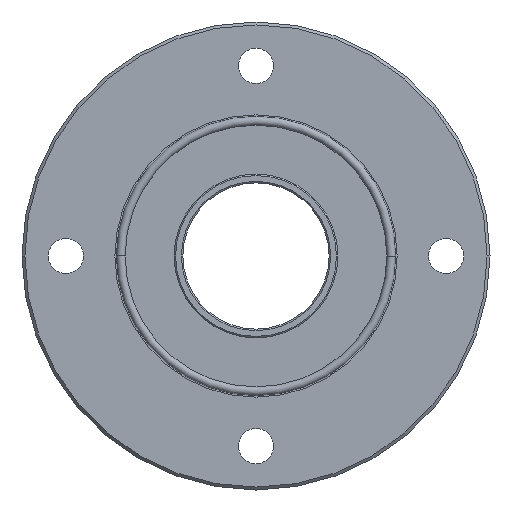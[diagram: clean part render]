
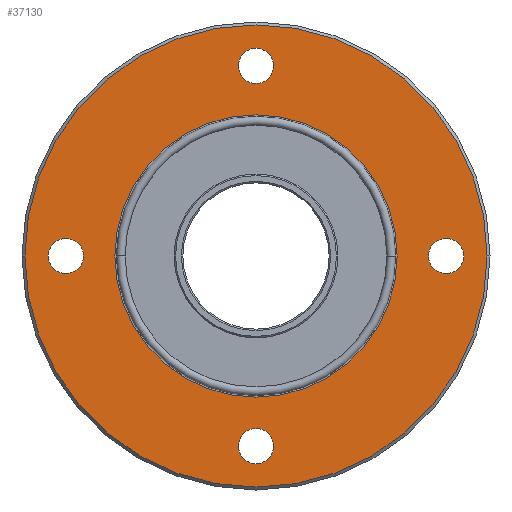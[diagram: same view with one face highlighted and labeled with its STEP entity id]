
A CAD part, left-side view. The second image highlights one B-rep face of the part: STEP entity #37130.
In plain terms, the highlighted planar face has unit normal (-1, 0, 0).
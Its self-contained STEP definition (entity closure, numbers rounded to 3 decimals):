
#1657 = CARTESIAN_POINT ( 'NONE',  ( 0., 79., 0. ) ) ;
#3009 = CARTESIAN_POINT ( 'NONE',  ( 0., -79., 0. ) ) ;
#3066 = DIRECTION ( 'NONE',  ( 0., -1., 0. ) ) ;
#3067 = DIRECTION ( 'NONE',  ( -1., 0., 0. ) ) ;
#3068 = CARTESIAN_POINT ( 'NONE',  ( 0., 0., 0. ) ) ;
#3069 = AXIS2_PLACEMENT_3D ( 'NONE', #3068, #3067, #3066 ) ;
#3070 = CIRCLE ( 'NONE', #3069, 79. ) ;
#14709 = DIRECTION ( 'NONE',  ( 0., -1., 0. ) ) ;
#14710 = DIRECTION ( 'NONE',  ( -1., 0., 0. ) ) ;
#14711 = CARTESIAN_POINT ( 'NONE',  ( 0., 65., 0. ) ) ;
#14712 = AXIS2_PLACEMENT_3D ( 'NONE', #14711, #14710, #14709 ) ;
#14713 = CIRCLE ( 'NONE', #14712, 6. ) ;
#14738 = AXIS2_PLACEMENT_3D ( 'NONE', #14800, #14799, #14798 ) ;
#14739 = CIRCLE ( 'NONE', #14738, 6. ) ;
#14740 = DIRECTION ( 'NONE',  ( 0., 0., -1. ) ) ;
#14741 = DIRECTION ( 'NONE',  ( -1., 0., 0. ) ) ;
#14742 = CARTESIAN_POINT ( 'NONE',  ( 0., 0., 65. ) ) ;
#14743 = AXIS2_PLACEMENT_3D ( 'NONE', #14742, #14741, #14740 ) ;
#14744 = CIRCLE ( 'NONE', #14743, 6. ) ;
#14776 = DIRECTION ( 'NONE',  ( 0., -1., 0. ) ) ;
#14777 = DIRECTION ( 'NONE',  ( -1., 0., 0. ) ) ;
#14778 = CARTESIAN_POINT ( 'NONE',  ( 0., 0., 0. ) ) ;
#14779 = AXIS2_PLACEMENT_3D ( 'NONE', #14778, #14777, #14776 ) ;
#14780 = PLANE ( 'NONE',  #14779 ) ;
#14782 = FACE_BOUND ( 'NONE', #37116, .T. ) ;
#14783 = FACE_BOUND ( 'NONE', #37106, .T. ) ;
#14784 = FACE_BOUND ( 'NONE', #37100, .T. ) ;
#14785 = FACE_BOUND ( 'NONE', #36982, .T. ) ;
#14786 = FACE_BOUND ( 'NONE', #36975, .T. ) ;
#14787 = FACE_OUTER_BOUND ( 'NONE', #37133, .T. ) ;
#14793 = DIRECTION ( 'NONE',  ( 0., 0., 1. ) ) ;
#14794 = DIRECTION ( 'NONE',  ( -1., 0., 0. ) ) ;
#14795 = CARTESIAN_POINT ( 'NONE',  ( 0., 0., -65. ) ) ;
#14796 = AXIS2_PLACEMENT_3D ( 'NONE', #14795, #14794, #14793 ) ;
#14797 = CIRCLE ( 'NONE', #14796, 6. ) ;
#14798 = DIRECTION ( 'NONE',  ( 0., 1., 0. ) ) ;
#14799 = DIRECTION ( 'NONE',  ( -1., 0., 0. ) ) ;
#14800 = CARTESIAN_POINT ( 'NONE',  ( 0., -65., 0. ) ) ;
#30979 = CARTESIAN_POINT ( 'NONE',  ( 0., 0., 0. ) ) ;
#30985 = DIRECTION ( 'NONE',  ( 0., -1., 0. ) ) ;
#30986 = DIRECTION ( 'NONE',  ( -1., 0., 0. ) ) ;
#30987 = CARTESIAN_POINT ( 'NONE',  ( 0., 0., 0. ) ) ;
#30988 = AXIS2_PLACEMENT_3D ( 'NONE', #30987, #30986, #30985 ) ;
#30989 = CIRCLE ( 'NONE', #30988, 48.25 ) ;
#30990 = DIRECTION ( 'NONE',  ( 0., -1., 0. ) ) ;
#30991 = DIRECTION ( 'NONE',  ( -1., 0., 0. ) ) ;
#30992 = AXIS2_PLACEMENT_3D ( 'NONE', #30979, #30991, #30990 ) ;
#30993 = CIRCLE ( 'NONE', #30992, 79. ) ;
#36968 = ORIENTED_EDGE ( 'NONE', *, *, #36970, .T. ) ;
#36970 = EDGE_CURVE ( 'NONE', #39555, #39664, #30993, .T. ) ;
#36972 = ORIENTED_EDGE ( 'NONE', *, *, #39675, .T. ) ;
#36975 = EDGE_LOOP ( 'NONE', ( #36977, #37094 ) ) ;
#36977 = ORIENTED_EDGE ( 'NONE', *, *, #36979, .F. ) ;
#36979 = EDGE_CURVE ( 'NONE', #40983, #41014, #30989, .T. ) ;
#36982 = EDGE_LOOP ( 'NONE', ( #37096, #37099 ) ) ;
#37072 = ORIENTED_EDGE ( 'NONE', *, *, #37074, .F. ) ;
#37074 = EDGE_CURVE ( 'NONE', #41106, #41025, #14713, .T. ) ;
#37076 = ORIENTED_EDGE ( 'NONE', *, *, #41064, .F. ) ;
#37094 = ORIENTED_EDGE ( 'NONE', *, *, #40936, .F. ) ;
#37096 = ORIENTED_EDGE ( 'NONE', *, *, #37098, .F. ) ;
#37098 = EDGE_CURVE ( 'NONE', #41010, #41013, #14744, .T. ) ;
#37099 = ORIENTED_EDGE ( 'NONE', *, *, #40999, .F. ) ;
#37100 = EDGE_LOOP ( 'NONE', ( #37102, #37105 ) ) ;
#37102 = ORIENTED_EDGE ( 'NONE', *, *, #37104, .F. ) ;
#37104 = EDGE_CURVE ( 'NONE', #40992, #41004, #14739, .T. ) ;
#37105 = ORIENTED_EDGE ( 'NONE', *, *, #40991, .F. ) ;
#37106 = EDGE_LOOP ( 'NONE', ( #37108, #37113 ) ) ;
#37108 = ORIENTED_EDGE ( 'NONE', *, *, #37110, .F. ) ;
#37110 = EDGE_CURVE ( 'NONE', #41103, #41047, #14797, .T. ) ;
#37113 = ORIENTED_EDGE ( 'NONE', *, *, #41055, .F. ) ;
#37116 = EDGE_LOOP ( 'NONE', ( #37072, #37076 ) ) ;
#37130 = ADVANCED_FACE ( 'NONE', ( #14787, #14786, #14785, #14784, #14783, #14782 ), #14780, .T. ) ;
#37133 = EDGE_LOOP ( 'NONE', ( #36968, #36972 ) ) ;
#39555 = VERTEX_POINT ( 'NONE', #1657 ) ;
#39664 = VERTEX_POINT ( 'NONE', #3009 ) ;
#39675 = EDGE_CURVE ( 'NONE', #39664, #39555, #3070, .T. ) ;
#40936 = EDGE_CURVE ( 'NONE', #41014, #40983, #52540, .T. ) ;
#40983 = VERTEX_POINT ( 'NONE', #52911 ) ;
#40991 = EDGE_CURVE ( 'NONE', #41004, #40992, #52970, .T. ) ;
#40992 = VERTEX_POINT ( 'NONE', #52965 ) ;
#40999 = EDGE_CURVE ( 'NONE', #41013, #41010, #52954, .T. ) ;
#41004 = VERTEX_POINT ( 'NONE', #53008 ) ;
#41010 = VERTEX_POINT ( 'NONE', #52992 ) ;
#41013 = VERTEX_POINT ( 'NONE', #52991 ) ;
#41014 = VERTEX_POINT ( 'NONE', #52990 ) ;
#41025 = VERTEX_POINT ( 'NONE', #53022 ) ;
#41047 = VERTEX_POINT ( 'NONE', #53088 ) ;
#41055 = EDGE_CURVE ( 'NONE', #41047, #41103, #53107, .T. ) ;
#41064 = EDGE_CURVE ( 'NONE', #41025, #41106, #53157, .T. ) ;
#41103 = VERTEX_POINT ( 'NONE', #53522 ) ;
#41106 = VERTEX_POINT ( 'NONE', #53511 ) ;
#52536 = DIRECTION ( 'NONE',  ( 0., -1., 0. ) ) ;
#52537 = DIRECTION ( 'NONE',  ( -1., 0., 0. ) ) ;
#52538 = AXIS2_PLACEMENT_3D ( 'NONE', #52541, #52537, #52536 ) ;
#52540 = CIRCLE ( 'NONE', #52538, 48.25 ) ;
#52541 = CARTESIAN_POINT ( 'NONE',  ( 0., 0., 0. ) ) ;
#52588 = DIRECTION ( 'NONE',  ( 0., 0., -1. ) ) ;
#52589 = DIRECTION ( 'NONE',  ( -1., 0., 0. ) ) ;
#52911 = CARTESIAN_POINT ( 'NONE',  ( 0., -48.25, 0. ) ) ;
#52952 = CARTESIAN_POINT ( 'NONE',  ( 0., 0., 65. ) ) ;
#52953 = AXIS2_PLACEMENT_3D ( 'NONE', #52952, #52589, #52588 ) ;
#52954 = CIRCLE ( 'NONE', #52953, 6. ) ;
#52965 = CARTESIAN_POINT ( 'NONE',  ( 0., -71., 0. ) ) ;
#52966 = DIRECTION ( 'NONE',  ( 0., 1., 0. ) ) ;
#52967 = DIRECTION ( 'NONE',  ( -1., 0., 0. ) ) ;
#52968 = CARTESIAN_POINT ( 'NONE',  ( 0., -65., 0. ) ) ;
#52969 = AXIS2_PLACEMENT_3D ( 'NONE', #52968, #52967, #52966 ) ;
#52970 = CIRCLE ( 'NONE', #52969, 6. ) ;
#52990 = CARTESIAN_POINT ( 'NONE',  ( 0., 48.25, 0. ) ) ;
#52991 = CARTESIAN_POINT ( 'NONE',  ( 0., 6., 65. ) ) ;
#52992 = CARTESIAN_POINT ( 'NONE',  ( 0., -6., 65. ) ) ;
#53008 = CARTESIAN_POINT ( 'NONE',  ( 0., -59., 0. ) ) ;
#53022 = CARTESIAN_POINT ( 'NONE',  ( 0., 71., 0. ) ) ;
#53088 = CARTESIAN_POINT ( 'NONE',  ( 0., 6., -65. ) ) ;
#53107 = CIRCLE ( 'NONE', #53129, 6. ) ;
#53126 = DIRECTION ( 'NONE',  ( 0., 0., 1. ) ) ;
#53127 = DIRECTION ( 'NONE',  ( -1., 0., 0. ) ) ;
#53128 = CARTESIAN_POINT ( 'NONE',  ( 0., 0., -65. ) ) ;
#53129 = AXIS2_PLACEMENT_3D ( 'NONE', #53128, #53127, #53126 ) ;
#53153 = DIRECTION ( 'NONE',  ( 0., -1., 0. ) ) ;
#53154 = DIRECTION ( 'NONE',  ( -1., 0., 0. ) ) ;
#53155 = CARTESIAN_POINT ( 'NONE',  ( 0., 65., 0. ) ) ;
#53156 = AXIS2_PLACEMENT_3D ( 'NONE', #53155, #53154, #53153 ) ;
#53157 = CIRCLE ( 'NONE', #53156, 6. ) ;
#53511 = CARTESIAN_POINT ( 'NONE',  ( 0., 59., 0. ) ) ;
#53522 = CARTESIAN_POINT ( 'NONE',  ( 0., -6., -65. ) ) ;
